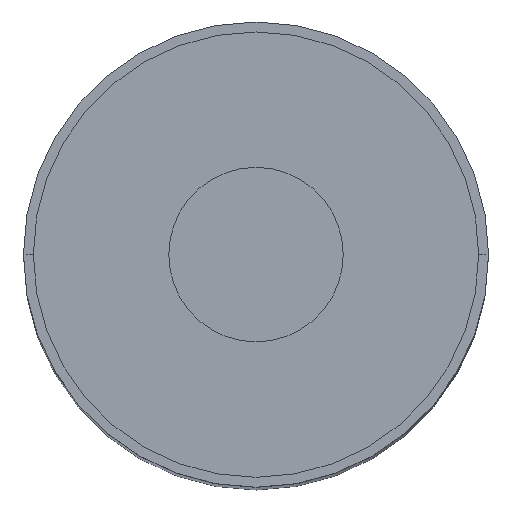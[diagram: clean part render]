
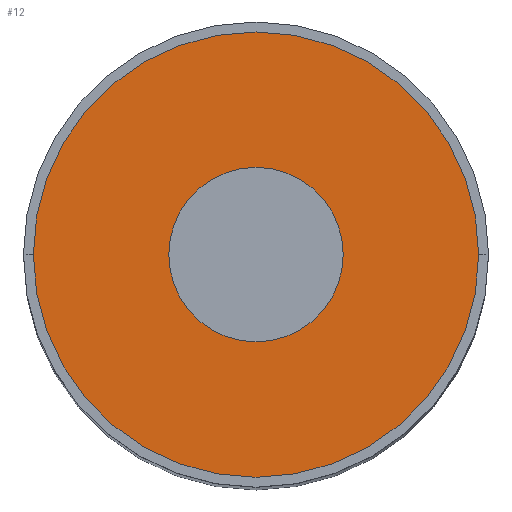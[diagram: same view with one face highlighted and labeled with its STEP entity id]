
A CAD part, top view. The second image highlights one B-rep face of the part: STEP entity #12.
In plain terms, the highlighted planar face has unit normal (0, 0, 1).
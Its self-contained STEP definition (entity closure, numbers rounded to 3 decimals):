
#12 = ADVANCED_FACE ( 'NONE', ( #99, #77 ), #81, .F. ) ;
#13 = CARTESIAN_POINT ( 'NONE',  ( 0., 0., 90.075 ) ) ;
#26 = CIRCLE ( 'NONE', #147, 4.5 ) ;
#29 = ORIENTED_EDGE ( 'NONE', *, *, #68, .T. ) ;
#37 = EDGE_CURVE ( 'NONE', #104, #425, #64, .T. ) ;
#64 = CIRCLE ( 'NONE', #348, 4.5 ) ;
#68 = EDGE_CURVE ( 'NONE', #425, #104, #26, .T. ) ;
#77 = FACE_BOUND ( 'NONE', #210, .T. ) ;
#78 = DIRECTION ( 'NONE',  ( 0., 0., -1. ) ) ;
#81 = PLANE ( 'NONE',  #93 ) ;
#93 = AXIS2_PLACEMENT_3D ( 'NONE', #429, #810, #613 ) ;
#99 = FACE_OUTER_BOUND ( 'NONE', #257, .T. ) ;
#104 = VERTEX_POINT ( 'NONE', #609 ) ;
#147 = AXIS2_PLACEMENT_3D ( 'NONE', #212, #231, #312 ) ;
#157 = ORIENTED_EDGE ( 'NONE', *, *, #37, .T. ) ;
#183 = EDGE_CURVE ( 'NONE', #675, #475, #519, .T. ) ;
#191 = DIRECTION ( 'NONE',  ( 0., 0., -1. ) ) ;
#210 = EDGE_LOOP ( 'NONE', ( #157, #29 ) ) ;
#212 = CARTESIAN_POINT ( 'NONE',  ( 0., 0., 90.075 ) ) ;
#231 = DIRECTION ( 'NONE',  ( 0., 0., -1. ) ) ;
#239 = ORIENTED_EDGE ( 'NONE', *, *, #183, .F. ) ;
#257 = EDGE_LOOP ( 'NONE', ( #412, #239 ) ) ;
#312 = DIRECTION ( 'NONE',  ( -1., 0., 0. ) ) ;
#348 = AXIS2_PLACEMENT_3D ( 'NONE', #13, #78, #781 ) ;
#356 = CARTESIAN_POINT ( 'NONE',  ( -11.488, 0., 90.075 ) ) ;
#385 = DIRECTION ( 'NONE',  ( -1., 0., 0. ) ) ;
#400 = CARTESIAN_POINT ( 'NONE',  ( 0., 0., 90.075 ) ) ;
#412 = ORIENTED_EDGE ( 'NONE', *, *, #689, .F. ) ;
#425 = VERTEX_POINT ( 'NONE', #725 ) ;
#429 = CARTESIAN_POINT ( 'NONE',  ( 0., 4.5, 90.075 ) ) ;
#464 = CIRCLE ( 'NONE', #486, 11.488 ) ;
#475 = VERTEX_POINT ( 'NONE', #356 ) ;
#486 = AXIS2_PLACEMENT_3D ( 'NONE', #801, #798, #794 ) ;
#519 = CIRCLE ( 'NONE', #768, 11.488 ) ;
#609 = CARTESIAN_POINT ( 'NONE',  ( -4.5, 0., 90.075 ) ) ;
#613 = DIRECTION ( 'NONE',  ( -1., 0., 0. ) ) ;
#675 = VERTEX_POINT ( 'NONE', #828 ) ;
#689 = EDGE_CURVE ( 'NONE', #475, #675, #464, .T. ) ;
#725 = CARTESIAN_POINT ( 'NONE',  ( 4.5, 0., 90.075 ) ) ;
#768 = AXIS2_PLACEMENT_3D ( 'NONE', #400, #191, #385 ) ;
#781 = DIRECTION ( 'NONE',  ( -1., 0., 0. ) ) ;
#794 = DIRECTION ( 'NONE',  ( -1., 0., 0. ) ) ;
#798 = DIRECTION ( 'NONE',  ( 0., 0., -1. ) ) ;
#801 = CARTESIAN_POINT ( 'NONE',  ( 0., 0., 90.075 ) ) ;
#810 = DIRECTION ( 'NONE',  ( 0., 0., -1. ) ) ;
#828 = CARTESIAN_POINT ( 'NONE',  ( 11.488, 0., 90.075 ) ) ;
